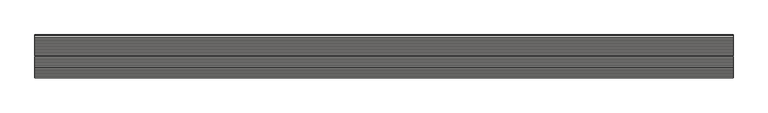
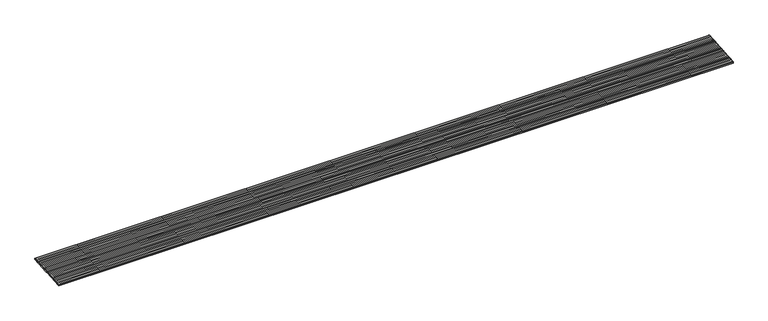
"""IFC4 building model written with IfcOpenShell, lengths in millimetres: slab geometry, ROSA GRES_001 (2 filas) : Piezas 001_Aqua_Blanco_Anti-Slip."""

from ifc_helpers import new_model, si_unit, point, frame, frame_2d, origin, place, context, project, spatial, polyline, circle_curve, trimmed, segment, composite_curve, outline, extrude, source, transform, mapped, element, save


def slab_11f2cbf8(model_context):
    return source(origin(), model_context, "Body", "SweptSolid", [
        extrude(outline(polyline([(0.0, -118.9996), (0.0, 0.0), (3987.1379887, 0.0), (3987.1379887, -118.9996), (0.0, -118.9996)])), frame((3987.1379887, 124.0577627, 199.6968204), z_axis=(0.0, -0.08112705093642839, 0.9967037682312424), x_axis=(-1.0, 0.0, 0.0)), (0.0, 0.0, 1.0), 5.0),
        extrude(outline(polyline([(0.0, -118.9996), (0.0, 0.0), (3987.1379887, 0.0), (3987.1379887, -118.9996), (0.0, -118.9996)])), frame((3987.1379887, 248.6453351, 209.8376693), z_axis=(0.0, -0.08112705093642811, 0.9967037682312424), x_axis=(-1.0, 0.0, 0.0)), (0.0, 0.0, 1.0), 5.0),
        extrude(outline(composite_curve([segment(polyline([(242.2594772, 214.3344258), (123.6521274, 204.6803392), (123.4389282, 207.2996439)]), True, "CONTINUOUS"), segment(trimmed(circle_curve(frame_2d((122.9853249, 212.8724843)), 5.5912705), [point((123.4389282, 207.2996439))], [point((127.5160501, 209.5960785))], True, "CARTESIAN"), True, "CONTINUOUS"), segment(trimmed(circle_curve(frame_2d((131.4572785, 213.5620619)), 5.5912705), [point((127.5160501, 209.5960785))], [point((135.9880037, 210.2856561))], True, "CARTESIAN"), True, "CONTINUOUS"), segment(trimmed(circle_curve(frame_2d((139.929232, 214.2516395)), 5.5912705), [point((135.9880037, 210.2856561))], [point((144.4599572, 210.9752337))], True, "CARTESIAN"), True, "CONTINUOUS"), segment(trimmed(circle_curve(frame_2d((148.4011856, 214.9412171)), 5.5912705), [point((144.4599572, 210.9752337))], [point((152.9319108, 211.6648113))], True, "CARTESIAN"), True, "CONTINUOUS"), segment(trimmed(circle_curve(frame_2d((156.8731392, 215.6307947)), 5.5912705), [point((152.9319108, 211.6648113))], [point((161.4038643, 212.3543889))], True, "CARTESIAN"), True, "CONTINUOUS"), segment(trimmed(circle_curve(frame_2d((165.3450927, 216.3203723)), 5.5912705), [point((161.4038643, 212.3543889))], [point((169.8758179, 213.0439666))], True, "CARTESIAN"), True, "CONTINUOUS"), segment(trimmed(circle_curve(frame_2d((173.8170463, 217.00995)), 5.5912705), [point((169.8758179, 213.0439666))], [point((178.3477714, 213.7335442))], True, "CARTESIAN"), True, "CONTINUOUS"), segment(trimmed(circle_curve(frame_2d((182.2889998, 217.6995276)), 5.5912705), [point((178.3477714, 213.7335442))], [point((186.819725, 214.4231218))], True, "CARTESIAN"), True, "CONTINUOUS"), segment(trimmed(circle_curve(frame_2d((190.7609534, 218.3891052)), 5.5912705), [point((186.819725, 214.4231218))], [point((195.2916785, 215.1126994))], True, "CARTESIAN"), True, "CONTINUOUS"), segment(trimmed(circle_curve(frame_2d((199.2329069, 219.0786828)), 5.5912705), [point((195.2916785, 215.1126994))], [point((203.7636321, 215.802277))], True, "CARTESIAN"), True, "CONTINUOUS"), segment(trimmed(circle_curve(frame_2d((207.7048605, 219.7682604)), 5.5912705), [point((203.7636321, 215.802277))], [point((212.2355856, 216.4918546))], True, "CARTESIAN"), True, "CONTINUOUS"), segment(trimmed(circle_curve(frame_2d((216.176814, 220.457838)), 5.5912705), [point((212.2355856, 216.4918546))], [point((220.7075392, 217.1814322))], True, "CARTESIAN"), True, "CONTINUOUS"), segment(trimmed(circle_curve(frame_2d((224.6487676, 221.1474157)), 5.5912705), [point((220.7075392, 217.1814322))], [point((229.1794928, 217.8710099))], True, "CARTESIAN"), True, "CONTINUOUS"), segment(trimmed(circle_curve(frame_2d((233.1207211, 221.8369933)), 5.5912705), [point((229.1794928, 217.8710099))], [point((237.6514463, 218.5605875))], True, "CARTESIAN"), True, "CONTINUOUS"), segment(trimmed(circle_curve(frame_2d((241.5926747, 222.5265709)), 5.5912705), [point((237.6514463, 218.5605875))], [point((242.046278, 216.9537305))], True, "CARTESIAN"), True, "CONTINUOUS"), segment(polyline([(242.046278, 216.9537305), (242.2594772, 214.3344258)]), True, "CONTINUOUS")], self_intersect=False)), frame((0.0, 0.0, 0.0), z_axis=(1.0, 0.0, 0.0), x_axis=(0.0, 1.0, 0.0)), (0.0, 0.0, 1.0), 3987.1379887),
        extrude(outline(composite_curve([segment(polyline([(366.8470495, 224.4752747), (248.2396998, 214.8211881), (248.0265006, 217.4404928)]), True, "CONTINUOUS"), segment(trimmed(circle_curve(frame_2d((247.5728973, 223.0133332)), 5.5912705), [point((248.0265006, 217.4404928))], [point((252.1036225, 219.7369274))], True, "CARTESIAN"), True, "CONTINUOUS"), segment(trimmed(circle_curve(frame_2d((256.0448508, 223.7029108)), 5.5912705), [point((252.1036225, 219.7369274))], [point((260.575576, 220.426505))], True, "CARTESIAN"), True, "CONTINUOUS"), segment(trimmed(circle_curve(frame_2d((264.5168044, 224.3924884)), 5.5912705), [point((260.575576, 220.426505))], [point((269.0475296, 221.1160826))], True, "CARTESIAN"), True, "CONTINUOUS"), segment(trimmed(circle_curve(frame_2d((272.9887579, 225.082066)), 5.5912705), [point((269.0475296, 221.1160826))], [point((277.5194831, 221.8056602))], True, "CARTESIAN"), True, "CONTINUOUS"), segment(trimmed(circle_curve(frame_2d((281.4607115, 225.7716436)), 5.5912705), [point((277.5194831, 221.8056602))], [point((285.9914367, 222.4952379))], True, "CARTESIAN"), True, "CONTINUOUS"), segment(trimmed(circle_curve(frame_2d((289.9326651, 226.4612213)), 5.5912705), [point((285.9914367, 222.4952379))], [point((294.4633902, 223.1848155))], True, "CARTESIAN"), True, "CONTINUOUS"), segment(trimmed(circle_curve(frame_2d((298.4046186, 227.1507989)), 5.5912705), [point((294.4633902, 223.1848155))], [point((302.9353438, 223.8743931))], True, "CARTESIAN"), True, "CONTINUOUS"), segment(trimmed(circle_curve(frame_2d((306.8765722, 227.8403765)), 5.5912705), [point((302.9353438, 223.8743931))], [point((311.4072973, 224.5639707))], True, "CARTESIAN"), True, "CONTINUOUS"), segment(trimmed(circle_curve(frame_2d((315.3485257, 228.5299541)), 5.5912705), [point((311.4072973, 224.5639707))], [point((319.8792509, 225.2535483))], True, "CARTESIAN"), True, "CONTINUOUS"), segment(trimmed(circle_curve(frame_2d((323.8204793, 229.2195317)), 5.5912705), [point((319.8792509, 225.2535483))], [point((328.3512044, 225.9431259))], True, "CARTESIAN"), True, "CONTINUOUS"), segment(trimmed(circle_curve(frame_2d((332.2924328, 229.9091093)), 5.5912705), [point((328.3512044, 225.9431259))], [point((336.823158, 226.6327035))], True, "CARTESIAN"), True, "CONTINUOUS"), segment(trimmed(circle_curve(frame_2d((340.7643864, 230.5986869)), 5.5912705), [point((336.823158, 226.6327035))], [point((345.2951115, 227.3222812))], True, "CARTESIAN"), True, "CONTINUOUS"), segment(trimmed(circle_curve(frame_2d((349.2363399, 231.2882646)), 5.5912705), [point((345.2951115, 227.3222812))], [point((353.7670651, 228.0118588))], True, "CARTESIAN"), True, "CONTINUOUS"), segment(trimmed(circle_curve(frame_2d((357.7082935, 231.9778422)), 5.5912705), [point((353.7670651, 228.0118588))], [point((362.2390187, 228.7014364))], True, "CARTESIAN"), True, "CONTINUOUS"), segment(trimmed(circle_curve(frame_2d((366.180247, 232.6674198)), 5.5912705), [point((362.2390187, 228.7014364))], [point((366.6338503, 227.0945794))], True, "CARTESIAN"), True, "CONTINUOUS"), segment(polyline([(366.6338503, 227.0945794), (366.8470495, 224.4752747)]), True, "CONTINUOUS")], self_intersect=False)), frame((0.0, 0.0, 0.0), z_axis=(1.0, 0.0, 0.0), x_axis=(0.0, 1.0, 0.0)), (0.0, 0.0, 1.0), 3987.1379887),
    ])


if __name__ == "__main__":
    model = new_model("IFC4")
    model_context = context("Model", 3, world=origin())
    ifc_project = project(units=[si_unit("LENGTHUNIT", "METRE", prefix="MILLI")], contexts=[model_context])
    site = spatial("IfcSite", under=ifc_project)
    building = spatial("IfcBuilding", under=site)
    placement = place(None, origin())
    slab_shape = slab_11f2cbf8(model_context)
    element("IfcSlab", 1, ObjectType="ROSA GRES_001 (2 filas) : Piezas 001_Aqua_Blanco_Anti-Slip", at=placement, inside=building, context=model_context, shape_type="MappedRepresentation", body=[
        mapped(slab_shape, transform((0.0, 0.0, 0.0), x_axis=(1.0, 0.0, 0.0), y_axis=(0.0, 1.0, 0.0), z_axis=(0.0, 0.0, 1.0))),
    ])
    save(model, "model.ifc")
